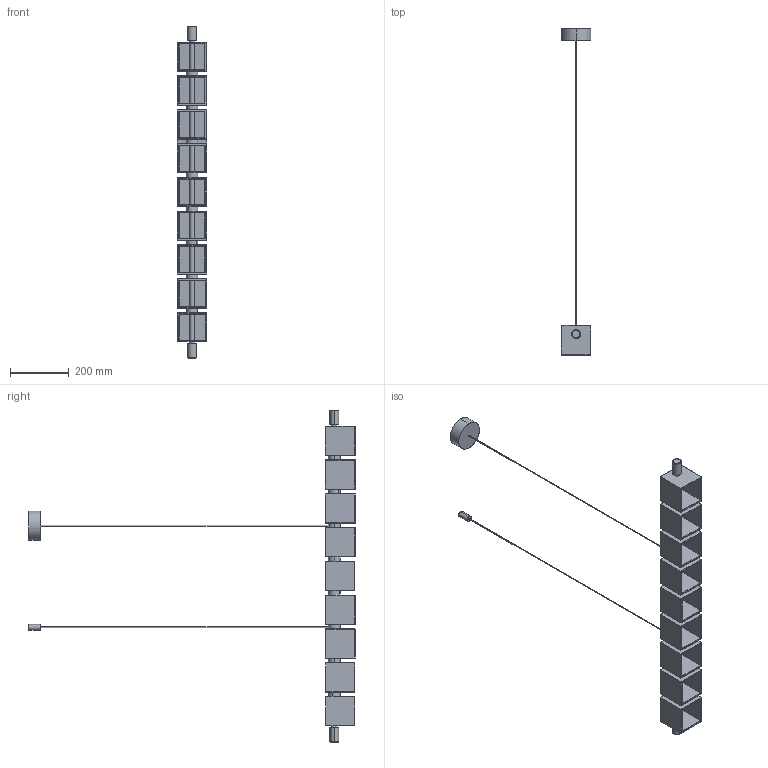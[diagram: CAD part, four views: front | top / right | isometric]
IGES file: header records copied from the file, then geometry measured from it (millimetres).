
Start section: SolidWorks IGES file using analytic representation for surfaces
Global section: file name: C:\Users\Agustin\Desktop\ARNOLD\SEPT 2025\2D-3D DEFINITIVO ONEDRIVE\2D-3D CUBIC_C1344_L\CUBIC_C1344_L.IGS; native system: SolidWorks 2018; preprocessor: SolidWorks 2018; author: Agustin; date: 250905.103417; units: millimetre
Bounding box: 101.97 x 1110.98 x 1130 mm (x, y, z)
Surface area: 996889 mm2 (no closed solid volume)
Topology: 0 solids, 0 shells, 587 faces, 8936 edges, 8864 vertices
Faces by surface type: revolution 402, bspline 185
